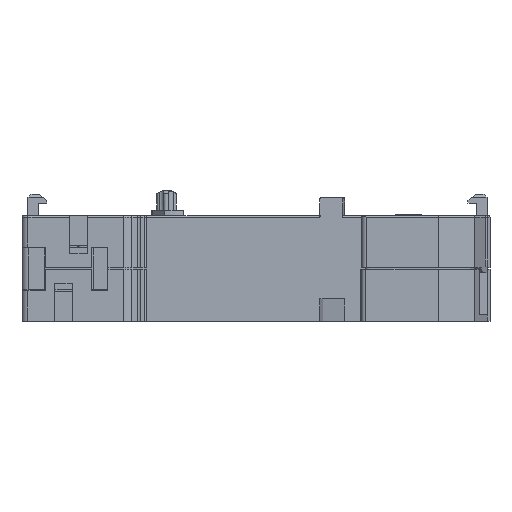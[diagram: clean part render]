
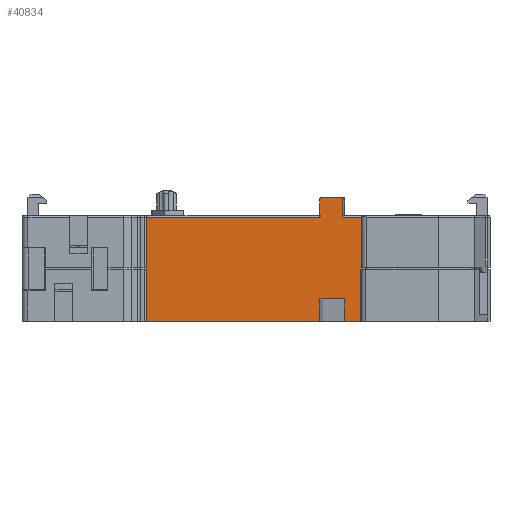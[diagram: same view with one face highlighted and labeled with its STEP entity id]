
A CAD part, front view. The second image highlights one B-rep face of the part: STEP entity #40834.
In plain terms, the highlighted planar face has unit normal (0, -1, 0).
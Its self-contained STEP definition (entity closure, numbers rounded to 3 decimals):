
#2736=DIRECTION('',(-1.,0.,0.));
#2737=VECTOR('',#2736,2.7);
#2738=CARTESIAN_POINT('',(38.322,-52.439,0.));
#2739=LINE('',#2738,#2737);
#2994=DIRECTION('',(-1.,0.,0.));
#2995=VECTOR('',#2994,29.15);
#2996=CARTESIAN_POINT('',(31.422,-52.439,0.));
#2997=LINE('',#2996,#2995);
#3010=DIRECTION('',(0.,0.,1.));
#3011=VECTOR('',#3010,8.8);
#3012=CARTESIAN_POINT('',(2.272,-52.439,0.));
#3013=LINE('',#3012,#3011);
#3014=DIRECTION('',(0.,0.,-1.));
#3015=VECTOR('',#3014,0.2);
#3016=CARTESIAN_POINT('',(2.272,-52.439,9.));
#3017=LINE('',#3016,#3015);
#3018=DIRECTION('',(0.,0.,-1.));
#3019=VECTOR('',#3018,8.5);
#3020=CARTESIAN_POINT('',(2.272,-52.439,17.5));
#3021=LINE('',#3020,#3019);
#3022=DIRECTION('',(-1.,0.,0.));
#3023=VECTOR('',#3022,3.38);
#3024=CARTESIAN_POINT('',(35.017,-52.439,20.8));
#3025=LINE('',#3024,#3023);
#3026=DIRECTION('',(0.,0.,1.));
#3027=VECTOR('',#3026,3.1);
#3028=CARTESIAN_POINT('',(35.222,-52.439,17.5));
#3029=LINE('',#3028,#3027);
#3030=CARTESIAN_POINT('',(38.622,-52.439,17.5));
#3031=DIRECTION('',(0.,-1.,0.));
#3032=DIRECTION('',(-0.667,0.,0.745));
#3033=AXIS2_PLACEMENT_3D('',#3030,#3031,#3032);
#3035=DIRECTION('',(0.,0.,-1.));
#3036=VECTOR('',#3035,8.8);
#3037=CARTESIAN_POINT('',(38.322,-52.439,8.8));
#3038=LINE('',#3037,#3036);
#3039=DIRECTION('',(1.,0.,0.));
#3040=VECTOR('',#3039,4.2);
#3041=CARTESIAN_POINT('',(31.422,-52.439,3.8));
#3042=LINE('',#3041,#3040);
#3043=DIRECTION('',(0.,0.,1.));
#3044=VECTOR('',#3043,3.8);
#3045=CARTESIAN_POINT('',(31.422,-52.439,0.));
#3046=LINE('',#3045,#3044);
#5012=DIRECTION('',(1.,0.,0.));
#5013=VECTOR('',#5012,0.1);
#5014=CARTESIAN_POINT('',(38.322,-52.439,8.8));
#5015=LINE('',#5014,#5013);
#8081=DIRECTION('',(0.,0.,-1.));
#8082=VECTOR('',#8081,0.2);
#8083=CARTESIAN_POINT('',(38.422,-52.439,9.));
#8084=LINE('',#8083,#8082);
#8089=DIRECTION('',(0.,0.,-1.));
#8090=VECTOR('',#8089,8.724);
#8091=CARTESIAN_POINT('',(38.422,-52.439,17.724));
#8092=LINE('',#8091,#8090);
#8136=DIRECTION('',(1.,0.,0.));
#8137=VECTOR('',#8136,3.1);
#8138=CARTESIAN_POINT('',(35.222,-52.439,17.5));
#8139=LINE('',#8138,#8137);
#8140=CARTESIAN_POINT('',(35.017,-52.439,20.8));
#8141=CARTESIAN_POINT('',(35.025,-52.439,20.8));
#8142=CARTESIAN_POINT('',(35.041,-52.439,20.799));
#8143=CARTESIAN_POINT('',(35.07,-52.439,20.794));
#8144=CARTESIAN_POINT('',(35.102,-52.439,20.783));
#8145=CARTESIAN_POINT('',(35.134,-52.439,20.765));
#8146=CARTESIAN_POINT('',(35.162,-52.439,20.743));
#8147=CARTESIAN_POINT('',(35.186,-52.439,20.716));
#8148=CARTESIAN_POINT('',(35.204,-52.439,20.684));
#8149=CARTESIAN_POINT('',(35.216,-52.439,20.653));
#8150=CARTESIAN_POINT('',(35.221,-52.439,20.624));
#8151=CARTESIAN_POINT('',(35.222,-52.439,20.608));
#8152=CARTESIAN_POINT('',(35.222,-52.439,20.6));
#8170=CARTESIAN_POINT('',(31.422,-52.439,20.6));
#8171=CARTESIAN_POINT('',(31.422,-52.439,20.609));
#8172=CARTESIAN_POINT('',(31.423,-52.439,20.625));
#8173=CARTESIAN_POINT('',(31.429,-52.439,20.654));
#8174=CARTESIAN_POINT('',(31.441,-52.439,20.685));
#8175=CARTESIAN_POINT('',(31.461,-52.439,20.717));
#8176=CARTESIAN_POINT('',(31.486,-52.439,20.744));
#8177=CARTESIAN_POINT('',(31.515,-52.439,20.766));
#8178=CARTESIAN_POINT('',(31.55,-52.439,20.784));
#8179=CARTESIAN_POINT('',(31.582,-52.439,20.794));
#8180=CARTESIAN_POINT('',(31.612,-52.439,20.799));
#8181=CARTESIAN_POINT('',(31.629,-52.439,20.8));
#8182=CARTESIAN_POINT('',(31.637,-52.439,20.8));
#8188=DIRECTION('',(0.,0.,1.));
#8189=VECTOR('',#8188,3.1);
#8190=CARTESIAN_POINT('',(31.422,-52.439,17.5));
#8191=LINE('',#8190,#8189);
#8207=DIRECTION('',(1.,0.,0.));
#8208=VECTOR('',#8207,29.15);
#8209=CARTESIAN_POINT('',(2.272,-52.439,17.5));
#8210=LINE('',#8209,#8208);
#27819=DIRECTION('',(0.,0.,1.));
#27820=VECTOR('',#27819,3.8);
#27821=CARTESIAN_POINT('',(35.622,-52.439,0.));
#27822=LINE('',#27821,#27820);
#29757=CARTESIAN_POINT('',(38.322,-52.439,0.));
#29759=VERTEX_POINT('',#29757);
#29766=CARTESIAN_POINT('',(2.272,-52.439,0.));
#29767=VERTEX_POINT('',#29766);
#31364=CARTESIAN_POINT('',(31.422,-52.439,0.));
#31365=VERTEX_POINT('',#31364);
#31366=CARTESIAN_POINT('',(31.422,-52.439,3.8));
#31367=VERTEX_POINT('',#31366);
#31368=CARTESIAN_POINT('',(35.622,-52.439,3.8));
#31369=VERTEX_POINT('',#31368);
#31370=CARTESIAN_POINT('',(35.622,-52.439,0.));
#31371=VERTEX_POINT('',#31370);
#32949=CARTESIAN_POINT('',(2.272,-52.439,9.));
#32951=VERTEX_POINT('',#32949);
#32998=CARTESIAN_POINT('',(38.422,-52.439,9.));
#32999=VERTEX_POINT('',#32998);
#33408=CARTESIAN_POINT('',(38.422,-52.439,
17.724));
#33409=VERTEX_POINT('',#33408);
#33796=CARTESIAN_POINT('',(38.322,-52.439,17.5));
#33797=VERTEX_POINT('',#33796);
#33798=CARTESIAN_POINT('',(35.222,-52.439,17.5));
#33799=VERTEX_POINT('',#33798);
#33800=CARTESIAN_POINT('',(35.222,-52.439,20.6));
#33801=VERTEX_POINT('',#33800);
#33802=VERTEX_POINT('',#8140);
#33803=CARTESIAN_POINT('',(31.637,-52.439,20.8));
#33804=VERTEX_POINT('',#33803);
#33805=VERTEX_POINT('',#8170);
#33806=CARTESIAN_POINT('',(31.422,-52.439,17.5));
#33807=VERTEX_POINT('',#33806);
#33808=CARTESIAN_POINT('',(2.272,-52.439,17.5));
#33809=VERTEX_POINT('',#33808);
#34405=CARTESIAN_POINT('',(38.322,-52.439,8.8));
#34406=CARTESIAN_POINT('',(38.422,-52.439,8.8));
#34407=VERTEX_POINT('',#34405);
#34408=VERTEX_POINT('',#34406);
#34518=CARTESIAN_POINT('',(2.272,-52.439,8.8));
#34520=VERTEX_POINT('',#34518);
#40790=CARTESIAN_POINT('',(2.272,-52.439,1.1));
#40791=DIRECTION('',(0.,1.,0.));
#40792=DIRECTION('',(1.,0.,0.));
#40793=AXIS2_PLACEMENT_3D('',#40790,#40791,#40792);
#40794=PLANE('',#40793);
#40796=ORIENTED_EDGE('',*,*,#40795,.T.);
#40798=ORIENTED_EDGE('',*,*,#40797,.F.);
#40800=ORIENTED_EDGE('',*,*,#40799,.F.);
#40802=ORIENTED_EDGE('',*,*,#40801,.T.);
#40804=ORIENTED_EDGE('',*,*,#40803,.T.);
#40806=ORIENTED_EDGE('',*,*,#40805,.T.);
#40808=ORIENTED_EDGE('',*,*,#40807,.F.);
#40810=ORIENTED_EDGE('',*,*,#40809,.T.);
#40812=ORIENTED_EDGE('',*,*,#40811,.F.);
#40814=ORIENTED_EDGE('',*,*,#40813,.T.);
#40816=ORIENTED_EDGE('',*,*,#40815,.F.);
#40818=ORIENTED_EDGE('',*,*,#40817,.T.);
#40820=ORIENTED_EDGE('',*,*,#40819,.T.);
#40822=ORIENTED_EDGE('',*,*,#40821,.F.);
#40824=ORIENTED_EDGE('',*,*,#40823,.T.);
#40825=ORIENTED_EDGE('',*,*,#40631,.T.);
#40827=ORIENTED_EDGE('',*,*,#40826,.T.);
#40829=ORIENTED_EDGE('',*,*,#40828,.F.);
#40830=ORIENTED_EDGE('',*,*,#40782,.F.);
#40831=ORIENTED_EDGE('',*,*,#40754,.T.);
#40832=EDGE_LOOP('',(#40796,#40798,#40800,#40802,#40804,#40806,#40808,#40810,
#40812,#40814,#40816,#40818,#40820,#40822,#40824,#40825,#40827,#40829,#40830,
#40831));
#40833=FACE_OUTER_BOUND('',#40832,.F.);
#40834=ADVANCED_FACE('',(#40833),#40794,.F.);
#3034=CIRCLE('',#3033,0.3);
#8153=B_SPLINE_CURVE_WITH_KNOTS('',3,(#8140,#8141,#8142,#8143,#8144,#8145,#8146,
#8147,#8148,#8149,#8150,#8151,#8152),.UNSPECIFIED.,.F.,.F.,(4,1,1,1,1,1,1,1,1,1,
4),(0.,0.063,0.125,0.25,0.375,0.5,0.625,0.75,0.875,0.938,
1.),.UNSPECIFIED.);
#8183=B_SPLINE_CURVE_WITH_KNOTS('',3,(#8170,#8171,#8172,#8173,#8174,#8175,#8176,
#8177,#8178,#8179,#8180,#8181,#8182),.UNSPECIFIED.,.F.,.F.,(4,1,1,1,1,1,1,1,1,1,
4),(0.,0.063,0.125,0.25,0.375,0.5,0.625,0.75,0.875,0.938,
1.),.UNSPECIFIED.);
#40631=EDGE_CURVE('',#29759,#31371,#2739,.T.);
#40754=EDGE_CURVE('',#31365,#29767,#2997,.T.);
#40782=EDGE_CURVE('',#31365,#31367,#3046,.T.);
#40795=EDGE_CURVE('',#29767,#34520,#3013,.T.);
#40797=EDGE_CURVE('',#32951,#34520,#3017,.T.);
#40799=EDGE_CURVE('',#33809,#32951,#3021,.T.);
#40801=EDGE_CURVE('',#33809,#33807,#8210,.T.);
#40803=EDGE_CURVE('',#33807,#33805,#8191,.T.);
#40805=EDGE_CURVE('',#33805,#33804,#8183,.T.);
#40807=EDGE_CURVE('',#33802,#33804,#3025,.T.);
#40809=EDGE_CURVE('',#33802,#33801,#8153,.T.);
#40811=EDGE_CURVE('',#33799,#33801,#3029,.T.);
#40813=EDGE_CURVE('',#33799,#33797,#8139,.T.);
#40815=EDGE_CURVE('',#33409,#33797,#3034,.T.);
#40817=EDGE_CURVE('',#33409,#32999,#8092,.T.);
#40819=EDGE_CURVE('',#32999,#34408,#8084,.T.);
#40821=EDGE_CURVE('',#34407,#34408,#5015,.T.);
#40823=EDGE_CURVE('',#34407,#29759,#3038,.T.);
#40826=EDGE_CURVE('',#31371,#31369,#27822,.T.);
#40828=EDGE_CURVE('',#31367,#31369,#3042,.T.);
